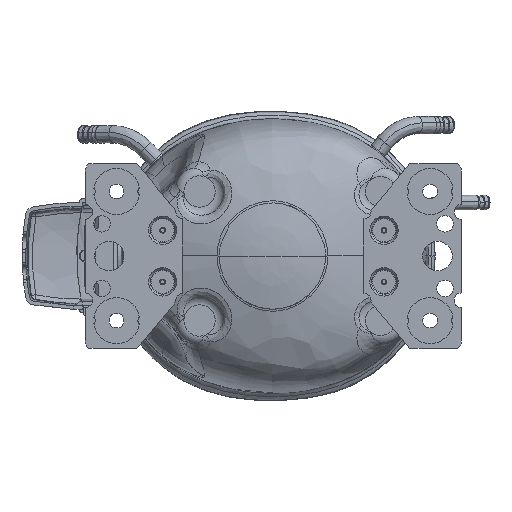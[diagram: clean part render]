
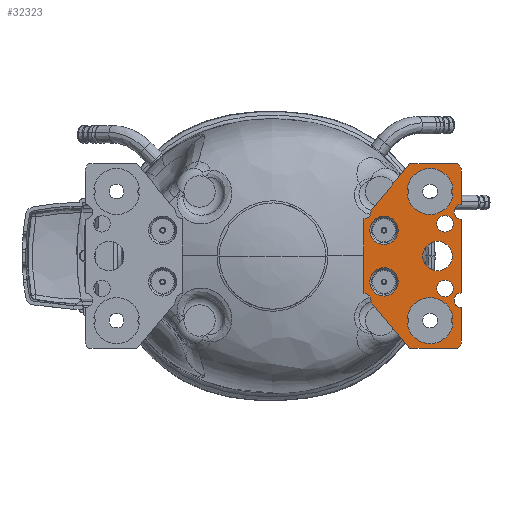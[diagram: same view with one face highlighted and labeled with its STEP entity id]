
A CAD part, front view. The second image highlights one B-rep face of the part: STEP entity #32323.
In plain terms, the highlighted planar face has unit normal (0, -1, 0) as drawn and (0, 0, -1) by its records, which use the part's own axes.
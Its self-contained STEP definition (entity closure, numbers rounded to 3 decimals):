
#31418=CARTESIAN_POINT('',(25.,-14.,0.));
#31419=DIRECTION('',(0.,0.,1.));
#31420=DIRECTION('',(-1.,0.,0.));
#31421=AXIS2_PLACEMENT_3D('',#31418,#31419,#31420);
#31423=CARTESIAN_POINT('',(25.,-14.,0.));
#31424=DIRECTION('',(0.,0.,1.));
#31425=DIRECTION('',(1.,0.,0.));
#31426=AXIS2_PLACEMENT_3D('',#31423,#31424,#31425);
#31428=CARTESIAN_POINT('',(25.,14.,0.));
#31429=DIRECTION('',(0.,0.,1.));
#31430=DIRECTION('',(-1.,0.,0.));
#31431=AXIS2_PLACEMENT_3D('',#31428,#31429,#31430);
#31433=CARTESIAN_POINT('',(25.,14.,0.));
#31434=DIRECTION('',(0.,0.,1.));
#31435=DIRECTION('',(1.,0.,0.));
#31436=AXIS2_PLACEMENT_3D('',#31433,#31434,#31435);
#31438=CARTESIAN_POINT('',(0.,35.,0.));
#31439=DIRECTION('',(0.,0.,-1.));
#31440=DIRECTION('',(1.,0.,0.));
#31441=AXIS2_PLACEMENT_3D('',#31438,#31439,#31440);
#31443=CARTESIAN_POINT('',(0.,35.,0.));
#31444=DIRECTION('',(0.,0.,-1.));
#31445=DIRECTION('',(-1.,0.,0.));
#31446=AXIS2_PLACEMENT_3D('',#31443,#31444,#31445);
#31448=CARTESIAN_POINT('',(0.,-35.,0.));
#31449=DIRECTION('',(0.,0.,-1.));
#31450=DIRECTION('',(1.,0.,0.));
#31451=AXIS2_PLACEMENT_3D('',#31448,#31449,#31450);
#31453=CARTESIAN_POINT('',(0.,-35.,0.));
#31454=DIRECTION('',(0.,0.,-1.));
#31455=DIRECTION('',(-1.,0.,0.));
#31456=AXIS2_PLACEMENT_3D('',#31453,#31454,#31455);
#31458=CARTESIAN_POINT('',(-8.,17.5,0.));
#31459=DIRECTION('',(0.,0.,-1.));
#31460=DIRECTION('',(1.,0.,0.));
#31461=AXIS2_PLACEMENT_3D('',#31458,#31459,#31460);
#31463=CARTESIAN_POINT('',(-8.,17.5,0.));
#31464=DIRECTION('',(0.,0.,-1.));
#31465=DIRECTION('',(-1.,0.,0.));
#31466=AXIS2_PLACEMENT_3D('',#31463,#31464,#31465);
#31468=CARTESIAN_POINT('',(-8.,-17.5,0.));
#31469=DIRECTION('',(0.,0.,-1.));
#31470=DIRECTION('',(1.,0.,0.));
#31471=AXIS2_PLACEMENT_3D('',#31468,#31469,#31470);
#31473=CARTESIAN_POINT('',(-8.,-17.5,0.));
#31474=DIRECTION('',(0.,0.,-1.));
#31475=DIRECTION('',(-1.,0.,0.));
#31476=AXIS2_PLACEMENT_3D('',#31473,#31474,#31475);
#31478=CARTESIAN_POINT('',(-4.,0.,0.));
#31479=DIRECTION('',(0.,0.,-1.));
#31480=DIRECTION('',(1.,0.,0.));
#31481=AXIS2_PLACEMENT_3D('',#31478,#31479,#31480);
#31483=CARTESIAN_POINT('',(-4.,0.,0.));
#31484=DIRECTION('',(0.,0.,-1.));
#31485=DIRECTION('',(-1.,0.,0.));
#31486=AXIS2_PLACEMENT_3D('',#31483,#31484,#31485);
#31488=CARTESIAN_POINT('',(-12.,46.,0.));
#31489=DIRECTION('',(0.,0.,1.));
#31490=DIRECTION('',(-0.6,0.8,0.));
#31491=AXIS2_PLACEMENT_3D('',#31488,#31489,#31490);
#31493=DIRECTION('',(0.,-1.,0.));
#31494=VECTOR('',#31493,18.);
#31495=CARTESIAN_POINT('',(-17.,46.,0.));
#31496=LINE('',#31495,#31494);
#31497=CARTESIAN_POINT('',(-17.,24.,0.));
#31498=DIRECTION('',(0.,0.,-1.));
#31499=DIRECTION('',(0.,1.,0.));
#31500=AXIS2_PLACEMENT_3D('',#31497,#31498,#31499);
#31502=DIRECTION('',(0.,-1.,0.));
#31503=VECTOR('',#31502,40.);
#31504=CARTESIAN_POINT('',(-17.,20.,0.));
#31505=LINE('',#31504,#31503);
#31506=CARTESIAN_POINT('',(-17.,-24.,0.));
#31507=DIRECTION('',(0.,0.,-1.));
#31508=DIRECTION('',(0.,1.,0.));
#31509=AXIS2_PLACEMENT_3D('',#31506,#31507,#31508);
#31511=DIRECTION('',(0.,-1.,0.));
#31512=VECTOR('',#31511,18.);
#31513=CARTESIAN_POINT('',(-17.,-28.,0.));
#31514=LINE('',#31513,#31512);
#31515=CARTESIAN_POINT('',(-12.,-46.,0.));
#31516=DIRECTION('',(0.,0.,1.));
#31517=DIRECTION('',(-1.,0.,0.));
#31518=AXIS2_PLACEMENT_3D('',#31515,#31516,#31517);
#31520=DIRECTION('',(1.,0.,0.));
#31521=VECTOR('',#31520,26.);
#31522=CARTESIAN_POINT('',(-15.,-50.,0.));
#31523=LINE('',#31522,#31521);
#31524=DIRECTION('',(0.643,0.766,0.));
#31525=VECTOR('',#31524,32.766);
#31526=CARTESIAN_POINT('',(11.,-50.,0.));
#31527=LINE('',#31526,#31525);
#31528=CARTESIAN_POINT('',(36.,-24.2,0.));
#31529=DIRECTION('',(0.,0.,-1.));
#31530=DIRECTION('',(-0.985,-0.175,0.));
#31531=AXIS2_PLACEMENT_3D('',#31528,#31529,#31530);
#31533=DIRECTION('',(0.,1.,0.));
#31534=VECTOR('',#31533,40.4);
#31535=CARTESIAN_POINT('',(36.,-20.2,0.));
#31536=LINE('',#31535,#31534);
#31537=CARTESIAN_POINT('',(36.,24.2,0.));
#31538=DIRECTION('',(0.,0.,-1.));
#31539=DIRECTION('',(0.,-1.,0.));
#31540=AXIS2_PLACEMENT_3D('',#31537,#31538,#31539);
#31542=DIRECTION('',(-0.643,0.766,0.));
#31543=VECTOR('',#31542,32.766);
#31544=CARTESIAN_POINT('',(32.062,24.9,0.));
#31545=LINE('',#31544,#31543);
#31546=DIRECTION('',(-1.,0.,0.));
#31547=VECTOR('',#31546,26.);
#31548=CARTESIAN_POINT('',(11.,50.,0.));
#31549=LINE('',#31548,#31547);
#32066=CARTESIAN_POINT('',(8.,35.,0.));
#32067=CARTESIAN_POINT('',(-8.,35.,0.));
#32068=VERTEX_POINT('',#32066);
#32069=VERTEX_POINT('',#32067);
#32070=CARTESIAN_POINT('',(8.,-35.,0.));
#32071=CARTESIAN_POINT('',(-8.,-35.,0.));
#32072=VERTEX_POINT('',#32070);
#32073=VERTEX_POINT('',#32071);
#32074=CARTESIAN_POINT('',(-17.,46.,0.));
#32075=CARTESIAN_POINT('',(-17.,28.,0.));
#32076=VERTEX_POINT('',#32074);
#32077=VERTEX_POINT('',#32075);
#32078=CARTESIAN_POINT('',(-17.,20.,0.));
#32079=VERTEX_POINT('',#32078);
#32080=CARTESIAN_POINT('',(-17.,-20.,0.));
#32081=VERTEX_POINT('',#32080);
#32082=CARTESIAN_POINT('',(-17.,-28.,0.));
#32083=VERTEX_POINT('',#32082);
#32084=CARTESIAN_POINT('',(-17.,-46.,0.));
#32085=VERTEX_POINT('',#32084);
#32086=CARTESIAN_POINT('',(-15.,-50.,0.));
#32087=CARTESIAN_POINT('',(11.,-50.,0.));
#32088=VERTEX_POINT('',#32086);
#32089=VERTEX_POINT('',#32087);
#32090=CARTESIAN_POINT('',(32.062,-24.9,0.));
#32091=VERTEX_POINT('',#32090);
#32092=CARTESIAN_POINT('',(36.,-20.2,0.));
#32093=VERTEX_POINT('',#32092);
#32094=CARTESIAN_POINT('',(36.,20.2,0.));
#32095=VERTEX_POINT('',#32094);
#32096=CARTESIAN_POINT('',(32.062,24.9,0.));
#32097=VERTEX_POINT('',#32096);
#32098=CARTESIAN_POINT('',(11.,50.,0.));
#32099=VERTEX_POINT('',#32098);
#32100=CARTESIAN_POINT('',(-15.,50.,0.));
#32101=VERTEX_POINT('',#32100);
#32146=CARTESIAN_POINT('',(32.655,14.,0.));
#32147=CARTESIAN_POINT('',(17.345,14.,0.));
#32148=VERTEX_POINT('',#32146);
#32149=VERTEX_POINT('',#32147);
#32188=CARTESIAN_POINT('',(32.655,-14.,0.));
#32189=CARTESIAN_POINT('',(17.345,-14.,0.));
#32190=VERTEX_POINT('',#32188);
#32191=VERTEX_POINT('',#32189);
#32222=CARTESIAN_POINT('',(-3.5,17.5,0.));
#32223=CARTESIAN_POINT('',(-12.5,17.5,0.));
#32224=VERTEX_POINT('',#32222);
#32225=VERTEX_POINT('',#32223);
#32226=CARTESIAN_POINT('',(-3.5,-17.5,0.));
#32227=CARTESIAN_POINT('',(-12.5,-17.5,0.));
#32228=VERTEX_POINT('',#32226);
#32229=VERTEX_POINT('',#32227);
#32238=CARTESIAN_POINT('',(4.,0.,0.));
#32239=CARTESIAN_POINT('',(-12.,0.,0.));
#32240=VERTEX_POINT('',#32238);
#32241=VERTEX_POINT('',#32239);
#32246=CARTESIAN_POINT('',(0.,0.,0.));
#32247=DIRECTION('',(0.,0.,1.));
#32248=DIRECTION('',(1.,0.,0.));
#32249=AXIS2_PLACEMENT_3D('',#32246,#32247,#32248);
#32250=PLANE('',#32249);
#32252=ORIENTED_EDGE('',*,*,#32251,.T.);
#32254=ORIENTED_EDGE('',*,*,#32253,.T.);
#32256=ORIENTED_EDGE('',*,*,#32255,.T.);
#32258=ORIENTED_EDGE('',*,*,#32257,.T.);
#32260=ORIENTED_EDGE('',*,*,#32259,.T.);
#32262=ORIENTED_EDGE('',*,*,#32261,.T.);
#32264=ORIENTED_EDGE('',*,*,#32263,.T.);
#32266=ORIENTED_EDGE('',*,*,#32265,.T.);
#32268=ORIENTED_EDGE('',*,*,#32267,.T.);
#32270=ORIENTED_EDGE('',*,*,#32269,.T.);
#32272=ORIENTED_EDGE('',*,*,#32271,.T.);
#32274=ORIENTED_EDGE('',*,*,#32273,.T.);
#32276=ORIENTED_EDGE('',*,*,#32275,.T.);
#32278=ORIENTED_EDGE('',*,*,#32277,.T.);
#32279=EDGE_LOOP('',(#32252,#32254,#32256,#32258,#32260,#32262,#32264,#32266,
#32268,#32270,#32272,#32274,#32276,#32278));
#32280=FACE_OUTER_BOUND('',#32279,.F.);
#32282=ORIENTED_EDGE('',*,*,#32281,.F.);
#32284=ORIENTED_EDGE('',*,*,#32283,.F.);
#32285=EDGE_LOOP('',(#32282,#32284));
#32286=FACE_BOUND('',#32285,.F.);
#32288=ORIENTED_EDGE('',*,*,#32287,.T.);
#32290=ORIENTED_EDGE('',*,*,#32289,.T.);
#32291=EDGE_LOOP('',(#32288,#32290));
#32292=FACE_BOUND('',#32291,.F.);
#32294=ORIENTED_EDGE('',*,*,#32293,.T.);
#32296=ORIENTED_EDGE('',*,*,#32295,.T.);
#32297=EDGE_LOOP('',(#32294,#32296));
#32298=FACE_BOUND('',#32297,.F.);
#32300=ORIENTED_EDGE('',*,*,#32299,.T.);
#32302=ORIENTED_EDGE('',*,*,#32301,.T.);
#32303=EDGE_LOOP('',(#32300,#32302));
#32304=FACE_BOUND('',#32303,.F.);
#32306=ORIENTED_EDGE('',*,*,#32305,.T.);
#32308=ORIENTED_EDGE('',*,*,#32307,.T.);
#32309=EDGE_LOOP('',(#32306,#32308));
#32310=FACE_BOUND('',#32309,.F.);
#32312=ORIENTED_EDGE('',*,*,#32311,.T.);
#32314=ORIENTED_EDGE('',*,*,#32313,.T.);
#32315=EDGE_LOOP('',(#32312,#32314));
#32316=FACE_BOUND('',#32315,.F.);
#32318=ORIENTED_EDGE('',*,*,#32317,.F.);
#32320=ORIENTED_EDGE('',*,*,#32319,.F.);
#32321=EDGE_LOOP('',(#32318,#32320));
#32322=FACE_BOUND('',#32321,.F.);
#32323=ADVANCED_FACE('',(#32280,#32286,#32292,#32298,#32304,#32310,#32316,
#32322),#32250,.F.);
#31422=CIRCLE('',#31421,7.655);
#31427=CIRCLE('',#31426,7.655);
#31432=CIRCLE('',#31431,7.655);
#31437=CIRCLE('',#31436,7.655);
#31442=CIRCLE('',#31441,8.);
#31447=CIRCLE('',#31446,8.);
#31452=CIRCLE('',#31451,8.);
#31457=CIRCLE('',#31456,8.);
#31462=CIRCLE('',#31461,4.5);
#31467=CIRCLE('',#31466,4.5);
#31472=CIRCLE('',#31471,4.5);
#31477=CIRCLE('',#31476,4.5);
#31482=CIRCLE('',#31481,8.);
#31487=CIRCLE('',#31486,8.);
#31492=CIRCLE('',#31491,5.);
#31501=CIRCLE('',#31500,4.);
#31510=CIRCLE('',#31509,4.);
#31519=CIRCLE('',#31518,5.);
#31532=CIRCLE('',#31531,4.);
#31541=CIRCLE('',#31540,4.);
#32251=EDGE_CURVE('',#32101,#32076,#31492,.T.);
#32253=EDGE_CURVE('',#32076,#32077,#31496,.T.);
#32255=EDGE_CURVE('',#32077,#32079,#31501,.T.);
#32257=EDGE_CURVE('',#32079,#32081,#31505,.T.);
#32259=EDGE_CURVE('',#32081,#32083,#31510,.T.);
#32261=EDGE_CURVE('',#32083,#32085,#31514,.T.);
#32263=EDGE_CURVE('',#32085,#32088,#31519,.T.);
#32265=EDGE_CURVE('',#32088,#32089,#31523,.T.);
#32267=EDGE_CURVE('',#32089,#32091,#31527,.T.);
#32269=EDGE_CURVE('',#32091,#32093,#31532,.T.);
#32271=EDGE_CURVE('',#32093,#32095,#31536,.T.);
#32273=EDGE_CURVE('',#32095,#32097,#31541,.T.);
#32275=EDGE_CURVE('',#32097,#32099,#31545,.T.);
#32277=EDGE_CURVE('',#32099,#32101,#31549,.T.);
#32281=EDGE_CURVE('',#32149,#32148,#31432,.T.);
#32283=EDGE_CURVE('',#32148,#32149,#31437,.T.);
#32287=EDGE_CURVE('',#32068,#32069,#31442,.T.);
#32289=EDGE_CURVE('',#32069,#32068,#31447,.T.);
#32293=EDGE_CURVE('',#32072,#32073,#31452,.T.);
#32295=EDGE_CURVE('',#32073,#32072,#31457,.T.);
#32299=EDGE_CURVE('',#32224,#32225,#31462,.T.);
#32301=EDGE_CURVE('',#32225,#32224,#31467,.T.);
#32305=EDGE_CURVE('',#32228,#32229,#31472,.T.);
#32307=EDGE_CURVE('',#32229,#32228,#31477,.T.);
#32311=EDGE_CURVE('',#32240,#32241,#31482,.T.);
#32313=EDGE_CURVE('',#32241,#32240,#31487,.T.);
#32317=EDGE_CURVE('',#32191,#32190,#31422,.T.);
#32319=EDGE_CURVE('',#32190,#32191,#31427,.T.);
